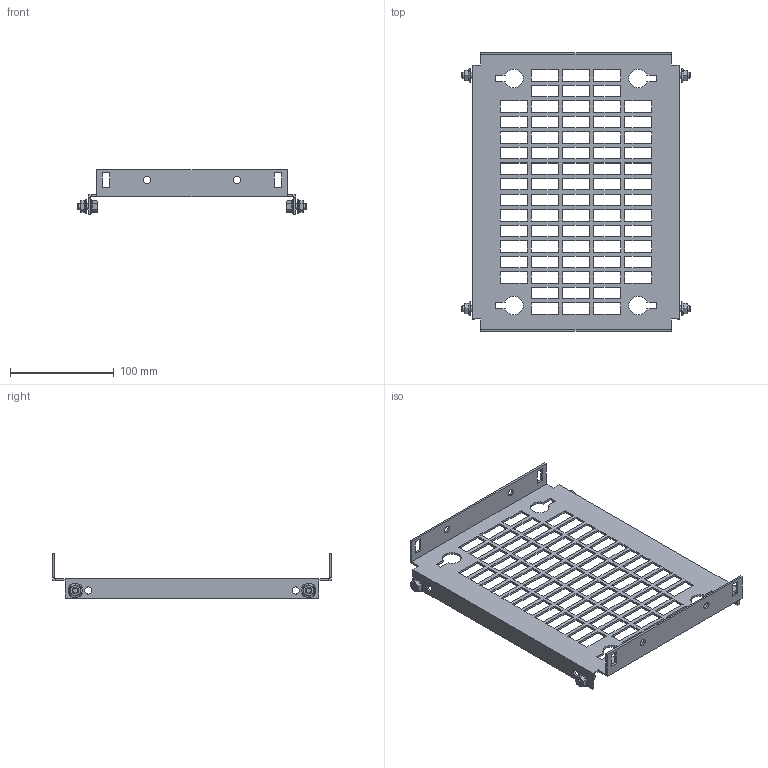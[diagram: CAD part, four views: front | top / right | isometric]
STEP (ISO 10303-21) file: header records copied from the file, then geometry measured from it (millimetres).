
FILE_DESCRIPTION(('Open CASCADE Model'),'2;1');
FILE_NAME('Open CASCADE Shape Model','2025-02-19T16:48:04',('Author'),( 'Open CASCADE'),'Open CASCADE STEP processor 7.8','Open CASCADE 7.8' ,'Unknown');
FILE_SCHEMA(('AUTOMOTIVE_DESIGN { 1 0 10303 214 1 1 1 1 }'));
Length unit declared in the file: millimetre
Products named in the file (4): Compound1; Solid1; Solid2; Solid3
Assembly tree (9 placements, depth 2):
  Compound1
    Solid1
    Solid2  x4
    Solid3  x4
Bounding box: 220 x 269 x 43 mm (x, y, z)
Volume: 101670.2 mm3; surface area: 115169.8 mm2
Topology: 9 solids, 9 shells, 578 faces, 1562 edges, 1006 vertices
Faces by surface type: plane 422, cone 68, bspline 48, cylinder 28, torus 12
Full cylindrical faces by diameter (mm): 5 x4, 6 x8, 7 x12
Entity records: 14496 total; most frequent: CARTESIAN_POINT 3055, ORIENTED_EDGE 2446, DIRECTION 2048, EDGE_CURVE 1223, LINE 1072, VECTOR 1072, VERTEX_POINT 808, FACE_BOUND 609
